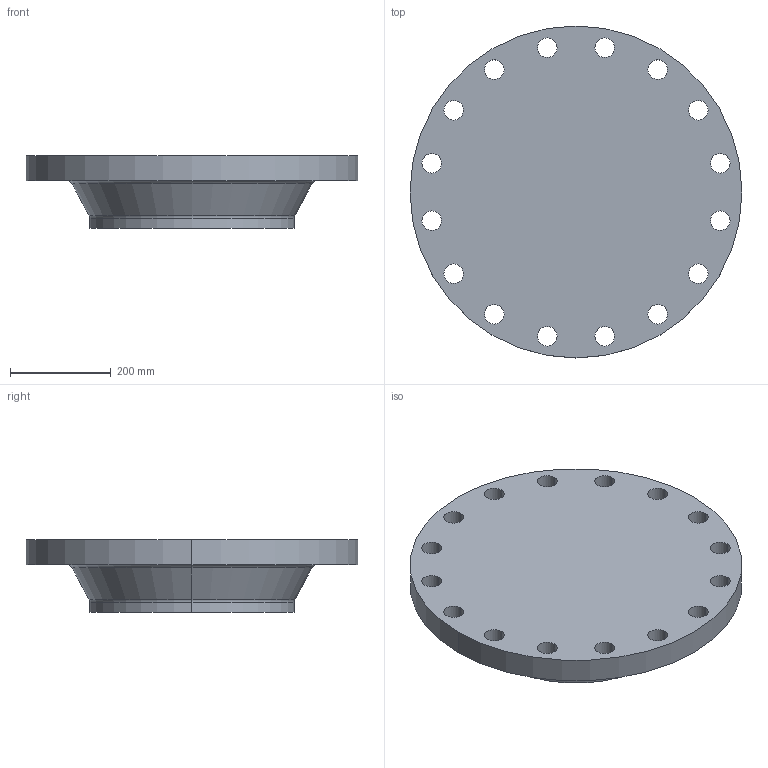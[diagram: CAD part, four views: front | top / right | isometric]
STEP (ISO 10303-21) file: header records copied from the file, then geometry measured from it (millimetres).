
FILE_DESCRIPTION (( 'STEP AP214' ), '1' );
FILE_NAME ('PN40 DN400 Type 21(ii) - Type A Face.STEP', '2019-01-05T23:12:05', ( '' ), ( '' ), 'SwSTEP 2.0', 'SolidWorks 2019', '' );
FILE_SCHEMA (( 'AUTOMOTIVE_DESIGN' ));
Length unit declared in the file: millimetre
Products named in the file (1): PN40 DN400 Type 21(ii) - Type A Face
Bounding box: 660 x 660 x 145 mm (x, y, z)
Volume: 30374478.1 mm3; surface area: 935015 mm2
Topology: 1 solids, 1 shells, 45 faces, 120 edges, 78 vertices
Faces by surface type: cylinder 36, torus 4, plane 3, cone 2
Entity records: 1546 total; most frequent: DIRECTION 294, CARTESIAN_POINT 244, ORIENTED_EDGE 240, AXIS2_PLACEMENT_3D 128, EDGE_CURVE 120, CIRCLE 82, VERTEX_POINT 78, EDGE_LOOP 78
